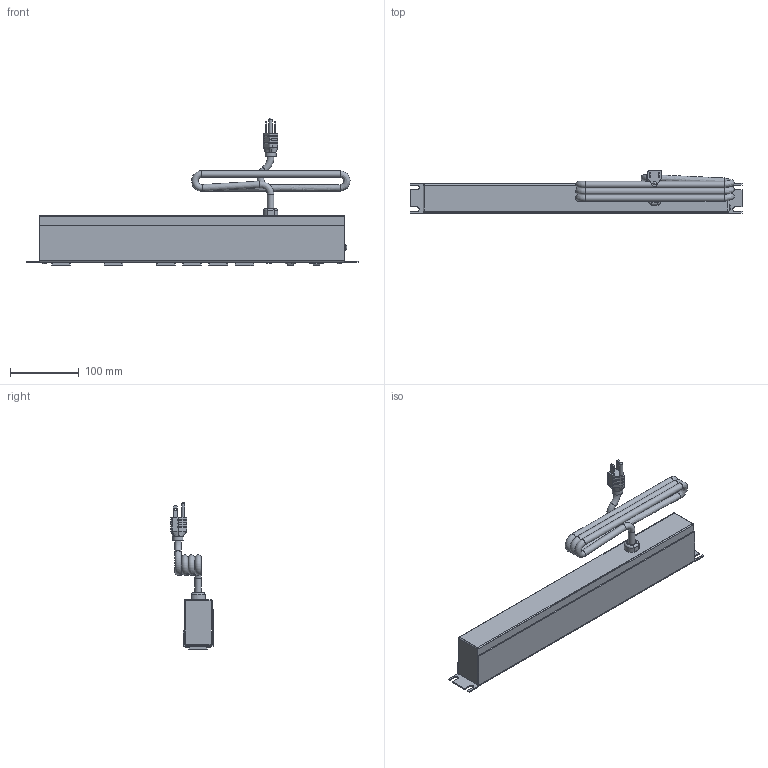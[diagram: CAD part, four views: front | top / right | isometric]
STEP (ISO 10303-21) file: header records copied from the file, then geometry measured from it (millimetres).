
FILE_DESCRIPTION(/* description */ (''),/* implementation_level */ '2;1');
FILE_NAME(/* name */ 'E:\Manufacturing\drawings\Web Drawings\POWER BARS\Surge Protection\1582''S'' series\STEP''s\1582H6A1S.stp',/* time_stamp */ '2019-01-14T09:56:46-05:00',/* author */ ('tfoster'),/* organization */ (''),/* preprocessor_version */ 'ST-DEVELOPER v17',/* originating_system */ 'Autodesk Inventor 2019',/* authorisation */ '');
FILE_SCHEMA (('AUTOMOTIVE_DESIGN { 1 0 10303 214 3 1 1 }'));
Products named in the file (12): 1582H6A1; 1582H6 Front plate black; 1582 Back Plate black; #25054; Reset Switch; Power Switch Assembly; Power Switch; Power Switch pt; Cored 2; Receptacle; Surge Light; tamper proof screw
Assembly tree (19 placements, depth 3):
  1582H6A1
    1582H6 Front plate black
    1582 Back Plate black
    #25054  x4
    Reset Switch
    Power Switch Assembly
      Power Switch
      Power Switch pt
    Cored 2
    Receptacle  x6
    Surge Light
    tamper proof screw
Bounding box: 482.6 x 61.48 x 214.29 mm (x, y, z)
Volume: 348070.8 mm3; surface area: 301246 mm2
Topology: 18 solids, 18 shells, 1001 faces, 2704 edges, 1746 vertices
Faces by surface type: plane 585, cylinder 273, bspline 73, sphere 31, cone 25, torus 14
Full cylindrical faces by diameter (mm): 1 x1, 1.803 x3, 1.905 x2, 2.13 x20, 2.286 x1, 2.997 x4, 3 x2, 3.505 x12, 4.775 x1, 4.801 x1, 5.563 x4, 6.858 x1, 7.747 x1, 7.95 x1, 9.5 x5, 9.652 x1, 11 x1, 15.621 x1
Entity records: 24887 total; most frequent: CARTESIAN_POINT 9325, ORIENTED_EDGE 3302, DIRECTION 2875, EDGE_CURVE 1651, LINE 1079, VECTOR 1079, VERTEX_POINT 1078, AXIS2_PLACEMENT_3D 898
